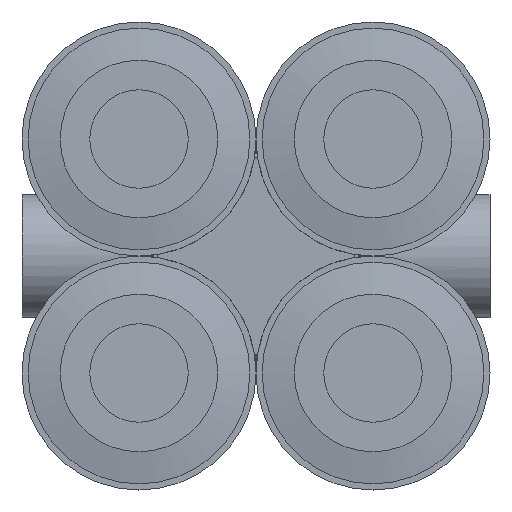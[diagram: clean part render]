
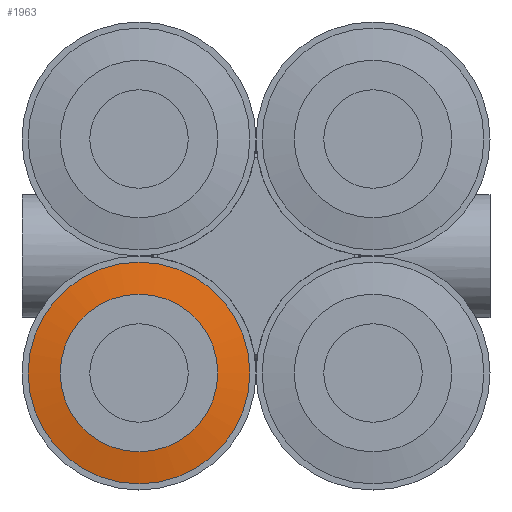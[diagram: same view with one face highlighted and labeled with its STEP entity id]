
A CAD part, front view. The second image highlights one B-rep face of the part: STEP entity #1963.
In plain terms, the highlighted conical face has half-angle 80 degrees and reference radius 3.85 mm.
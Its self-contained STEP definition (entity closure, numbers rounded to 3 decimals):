
#1929=CARTESIAN_POINT('',(-9.25,-12.971,-4.75));
#1930=VERTEX_POINT('',#1929);
#1931=CARTESIAN_POINT('',(-4.75,-12.971,-4.75));
#1932=DIRECTION('',(0.0,-1.0,0.0));
#1933=DIRECTION('',(-1.0,0.0,0.0));
#1934=AXIS2_PLACEMENT_3D('',#1931,#1932,#1933);
#1935=CIRCLE('',#1934,4.5);
#1936=EDGE_CURVE('',#1930,#1930,#1935,.T.);
#1944=CARTESIAN_POINT('',(-4.75,-13.085,-4.75));
#1945=DIRECTION('',(0.,1.0,0.0));
#1946=DIRECTION('',(-1.0,0.0,0.0));
#1947=AXIS2_PLACEMENT_3D('',#1944,#1945,#1946);
#1948=CONICAL_SURFACE('',#1947,3.85,80.);
#1949=CARTESIAN_POINT('',(-7.95,-13.2,-4.75));
#1950=VERTEX_POINT('',#1949);
#1951=CARTESIAN_POINT('',(-4.75,-13.2,-4.75));
#1952=DIRECTION('',(0.0,-1.0,0.0));
#1953=DIRECTION('',(-1.0,0.0,0.0));
#1954=AXIS2_PLACEMENT_3D('',#1951,#1952,#1953);
#1955=CIRCLE('',#1954,3.2);
#1956=EDGE_CURVE('',#1950,#1950,#1955,.T.);
#1957=ORIENTED_EDGE('',*,*,#1956,.F.);
#1958=EDGE_LOOP('',(#1957));
#1959=FACE_OUTER_BOUND('',#1958,.T.);
#1960=ORIENTED_EDGE('',*,*,#1936,.T.);
#1961=EDGE_LOOP('',(#1960));
#1962=FACE_BOUND('',#1961,.T.);
#1963=ADVANCED_FACE('',(#1959,#1962),#1948,.T.);
